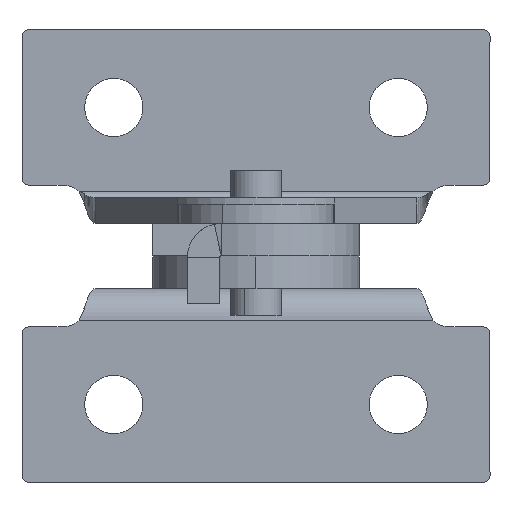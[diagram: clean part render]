
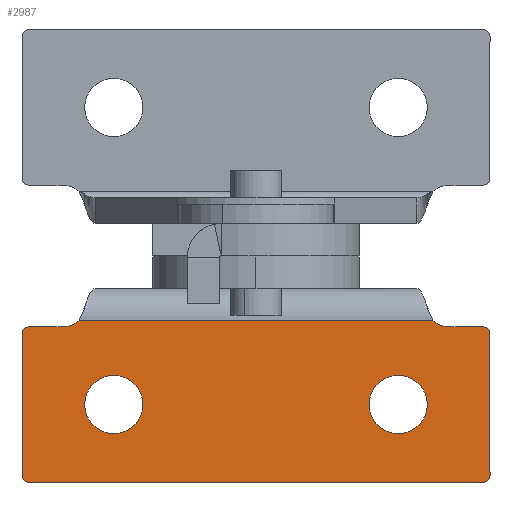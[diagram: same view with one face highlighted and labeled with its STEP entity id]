
A CAD part, left-side view. The second image highlights one B-rep face of the part: STEP entity #2987.
In plain terms, the highlighted planar face has unit normal (-1, 0, 0) as drawn and (0, 0, -1) by its records, which use the part's own axes.
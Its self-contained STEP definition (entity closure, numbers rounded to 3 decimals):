
#4 = EDGE_CURVE ( 'NONE', #628, #2465, #2777, .T. ) ;
#33 = ORIENTED_EDGE ( 'NONE', *, *, #722, .T. ) ;
#48 = CARTESIAN_POINT ( 'NONE',  ( 18.1, 0., -2. ) ) ;
#54 = EDGE_CURVE ( 'NONE', #201, #3118, #700, .T. ) ;
#67 = CARTESIAN_POINT ( 'NONE',  ( 17.6, 0.5, -2. ) ) ;
#75 = DIRECTION ( 'NONE',  ( 0., 0., -1. ) ) ;
#80 = CIRCLE ( 'NONE', #2393, 0.5 ) ;
#86 = EDGE_CURVE ( 'NONE', #2665, #1821, #1947, .T. ) ;
#97 = CARTESIAN_POINT ( 'NONE',  ( -17.6, 12., -2. ) ) ;
#100 = VERTEX_POINT ( 'NONE', #412 ) ;
#110 = DIRECTION ( 'NONE',  ( 1., 0., 0. ) ) ;
#112 = EDGE_CURVE ( 'NONE', #1745, #883, #2495, .T. ) ;
#115 = ORIENTED_EDGE ( 'NONE', *, *, #4, .F. ) ;
#130 = DIRECTION ( 'NONE',  ( -1., 0., 0. ) ) ;
#136 = CARTESIAN_POINT ( 'NONE',  ( 18.1, 12., -2. ) ) ;
#155 = CARTESIAN_POINT ( 'NONE',  ( 17.6, 0., -2. ) ) ;
#164 = VERTEX_POINT ( 'NONE', #616 ) ;
#197 = CIRCLE ( 'NONE', #1020, 2. ) ;
#201 = VERTEX_POINT ( 'NONE', #2551 ) ;
#202 = VECTOR ( 'NONE', #1856, 1000. ) ;
#217 = ORIENTED_EDGE ( 'NONE', *, *, #532, .T. ) ;
#284 = EDGE_LOOP ( 'NONE', ( #526, #217 ) ) ;
#300 = CARTESIAN_POINT ( 'NONE',  ( -11., 6., -2. ) ) ;
#303 = DIRECTION ( 'NONE',  ( 0., 0., 1. ) ) ;
#307 = DIRECTION ( 'NONE',  ( 1., 0., 0. ) ) ;
#320 = CARTESIAN_POINT ( 'NONE',  ( -18.1, 12., -2. ) ) ;
#342 = DIRECTION ( 'NONE',  ( 0., -1., 0. ) ) ;
#375 = LINE ( 'NONE', #136, #1700 ) ;
#412 = CARTESIAN_POINT ( 'NONE',  ( 13.69, 12.489, -2. ) ) ;
#442 = CARTESIAN_POINT ( 'NONE',  ( 15., 12.489, -2. ) ) ;
#448 = CARTESIAN_POINT ( 'NONE',  ( -15., 14., -2. ) ) ;
#454 = DIRECTION ( 'NONE',  ( 0., 0., -1. ) ) ;
#459 = DIRECTION ( 'NONE',  ( 1., 0., 0. ) ) ;
#484 = VECTOR ( 'NONE', #522, 1000. ) ;
#489 = CARTESIAN_POINT ( 'NONE',  ( -15., 12., -2. ) ) ;
#509 = VERTEX_POINT ( 'NONE', #2102 ) ;
#522 = DIRECTION ( 'NONE',  ( -1., 0., 0. ) ) ;
#526 = ORIENTED_EDGE ( 'NONE', *, *, #2678, .T. ) ;
#532 = EDGE_CURVE ( 'NONE', #974, #509, #773, .T. ) ;
#573 = DIRECTION ( 'NONE',  ( 0., 1., 0. ) ) ;
#595 = ORIENTED_EDGE ( 'NONE', *, *, #54, .T. ) ;
#616 = CARTESIAN_POINT ( 'NONE',  ( 17.6, 12., -2. ) ) ;
#625 = DIRECTION ( 'NONE',  ( -1., 0., 0. ) ) ;
#628 = VERTEX_POINT ( 'NONE', #2514 ) ;
#632 = ORIENTED_EDGE ( 'NONE', *, *, #112, .F. ) ;
#695 = ORIENTED_EDGE ( 'NONE', *, *, #1009, .T. ) ;
#700 = CIRCLE ( 'NONE', #1122, 2.25 ) ;
#722 = EDGE_CURVE ( 'NONE', #628, #3109, #2804, .T. ) ;
#773 = CIRCLE ( 'NONE', #1038, 2.25 ) ;
#804 = CIRCLE ( 'NONE', #919, 2.25 ) ;
#822 = CARTESIAN_POINT ( 'NONE',  ( -13.25, 6., -2. ) ) ;
#869 = LINE ( 'NONE', #2060, #202 ) ;
#883 = VERTEX_POINT ( 'NONE', #1393 ) ;
#884 = VECTOR ( 'NONE', #625, 1000. ) ;
#919 = AXIS2_PLACEMENT_3D ( 'NONE', #2228, #2173, #2116 ) ;
#941 = CIRCLE ( 'NONE', #2127, 0.5 ) ;
#974 = VERTEX_POINT ( 'NONE', #1521 ) ;
#1009 = EDGE_CURVE ( 'NONE', #164, #2465, #941, .T. ) ;
#1020 = AXIS2_PLACEMENT_3D ( 'NONE', #2413, #2414, #2421 ) ;
#1026 = VERTEX_POINT ( 'NONE', #1695 ) ;
#1038 = AXIS2_PLACEMENT_3D ( 'NONE', #2253, #2256, #2264 ) ;
#1039 = EDGE_CURVE ( 'NONE', #1208, #3109, #869, .T. ) ;
#1093 = ORIENTED_EDGE ( 'NONE', *, *, #2594, .F. ) ;
#1122 = AXIS2_PLACEMENT_3D ( 'NONE', #300, #303, #307 ) ;
#1125 = FACE_BOUND ( 'NONE', #2849, .T. ) ;
#1169 = CARTESIAN_POINT ( 'NONE',  ( 18.1, 11.5, -2. ) ) ;
#1208 = VERTEX_POINT ( 'NONE', #2272 ) ;
#1237 = LINE ( 'NONE', #442, #484 ) ;
#1260 = ORIENTED_EDGE ( 'NONE', *, *, #3079, .F. ) ;
#1295 = AXIS2_PLACEMENT_3D ( 'NONE', #1739, #1541, #1534 ) ;
#1298 = AXIS2_PLACEMENT_3D ( 'NONE', #1631, #1614, #1606 ) ;
#1393 = CARTESIAN_POINT ( 'NONE',  ( -15., 12., -2. ) ) ;
#1399 = ORIENTED_EDGE ( 'NONE', *, *, #2161, .T. ) ;
#1450 = AXIS2_PLACEMENT_3D ( 'NONE', #448, #454, #459 ) ;
#1459 = EDGE_CURVE ( 'NONE', #1208, #1821, #80, .T. ) ;
#1517 = CIRCLE ( 'NONE', #1295, 2.25 ) ;
#1521 = CARTESIAN_POINT ( 'NONE',  ( 8.75, 6., -2. ) ) ;
#1534 = DIRECTION ( 'NONE',  ( 1., 0., 0. ) ) ;
#1541 = DIRECTION ( 'NONE',  ( 0., 0., 1. ) ) ;
#1606 = DIRECTION ( 'NONE',  ( 1., 0., 0. ) ) ;
#1614 = DIRECTION ( 'NONE',  ( 0., 0., 1. ) ) ;
#1631 = CARTESIAN_POINT ( 'NONE',  ( 15., 14., -2. ) ) ;
#1660 = PLANE ( 'NONE',  #1298 ) ;
#1678 = EDGE_LOOP ( 'NONE', ( #1093, #695, #115, #33, #2853, #2271, #1919, #1805, #1260, #632, #2727, #2181 ) ) ;
#1680 = EDGE_CURVE ( 'NONE', #1026, #100, #197, .T. ) ;
#1695 = CARTESIAN_POINT ( 'NONE',  ( 15., 12., -2. ) ) ;
#1700 = VECTOR ( 'NONE', #130, 1000. ) ;
#1739 = CARTESIAN_POINT ( 'NONE',  ( -11., 6., -2. ) ) ;
#1745 = VERTEX_POINT ( 'NONE', #2494 ) ;
#1764 = CARTESIAN_POINT ( 'NONE',  ( 17.6, 11.5, -2. ) ) ;
#1769 = DIRECTION ( 'NONE',  ( 0., 0., -1. ) ) ;
#1785 = DIRECTION ( 'NONE',  ( 1., 0., 0. ) ) ;
#1805 = ORIENTED_EDGE ( 'NONE', *, *, #1913, .T. ) ;
#1821 = VERTEX_POINT ( 'NONE', #2646 ) ;
#1856 = DIRECTION ( 'NONE',  ( 1., 0., 0. ) ) ;
#1913 = EDGE_CURVE ( 'NONE', #2665, #2606, #2945, .T. ) ;
#1919 = ORIENTED_EDGE ( 'NONE', *, *, #86, .F. ) ;
#1931 = FACE_OUTER_BOUND ( 'NONE', #1678, .T. ) ;
#1933 = CARTESIAN_POINT ( 'NONE',  ( -17.6, 0.5, -2. ) ) ;
#1939 = DIRECTION ( 'NONE',  ( 0., 0., -1. ) ) ;
#1945 = DIRECTION ( 'NONE',  ( 1., 0., 0. ) ) ;
#1947 = LINE ( 'NONE', #320, #2585 ) ;
#2060 = CARTESIAN_POINT ( 'NONE',  ( -18.1, 0., -2. ) ) ;
#2102 = CARTESIAN_POINT ( 'NONE',  ( 13.25, 6., -2. ) ) ;
#2116 = DIRECTION ( 'NONE',  ( 1., 0., 0. ) ) ;
#2127 = AXIS2_PLACEMENT_3D ( 'NONE', #1764, #1769, #1785 ) ;
#2161 = EDGE_CURVE ( 'NONE', #3118, #201, #1517, .T. ) ;
#2162 = VECTOR ( 'NONE', #573, 1000. ) ;
#2169 = AXIS2_PLACEMENT_3D ( 'NONE', #2891, #2901, #2922 ) ;
#2173 = DIRECTION ( 'NONE',  ( 0., 0., 1. ) ) ;
#2181 = ORIENTED_EDGE ( 'NONE', *, *, #1680, .F. ) ;
#2228 = CARTESIAN_POINT ( 'NONE',  ( 11., 6., -2. ) ) ;
#2253 = CARTESIAN_POINT ( 'NONE',  ( 11., 6., -2. ) ) ;
#2256 = DIRECTION ( 'NONE',  ( 0., 0., 1. ) ) ;
#2264 = DIRECTION ( 'NONE',  ( 1., 0., 0. ) ) ;
#2271 = ORIENTED_EDGE ( 'NONE', *, *, #1459, .T. ) ;
#2272 = CARTESIAN_POINT ( 'NONE',  ( -17.6, 0., -2. ) ) ;
#2393 = AXIS2_PLACEMENT_3D ( 'NONE', #1933, #1939, #1945 ) ;
#2412 = FACE_BOUND ( 'NONE', #284, .T. ) ;
#2413 = CARTESIAN_POINT ( 'NONE',  ( 15., 14., -2. ) ) ;
#2414 = DIRECTION ( 'NONE',  ( 0., 0., -1. ) ) ;
#2421 = DIRECTION ( 'NONE',  ( 1., 0., 0. ) ) ;
#2465 = VERTEX_POINT ( 'NONE', #1169 ) ;
#2494 = CARTESIAN_POINT ( 'NONE',  ( -13.69, 12.489, -2. ) ) ;
#2495 = CIRCLE ( 'NONE', #1450, 2. ) ;
#2514 = CARTESIAN_POINT ( 'NONE',  ( 18.1, 0.5, -2. ) ) ;
#2551 = CARTESIAN_POINT ( 'NONE',  ( -8.75, 6., -2. ) ) ;
#2585 = VECTOR ( 'NONE', #342, 1000. ) ;
#2594 = EDGE_CURVE ( 'NONE', #164, #1026, #375, .T. ) ;
#2606 = VERTEX_POINT ( 'NONE', #97 ) ;
#2607 = LINE ( 'NONE', #489, #884 ) ;
#2646 = CARTESIAN_POINT ( 'NONE',  ( -18.1, 0.5, -2. ) ) ;
#2665 = VERTEX_POINT ( 'NONE', #2733 ) ;
#2668 = AXIS2_PLACEMENT_3D ( 'NONE', #67, #75, #110 ) ;
#2678 = EDGE_CURVE ( 'NONE', #509, #974, #804, .T. ) ;
#2727 = ORIENTED_EDGE ( 'NONE', *, *, #2833, .F. ) ;
#2733 = CARTESIAN_POINT ( 'NONE',  ( -18.1, 11.5, -2. ) ) ;
#2777 = LINE ( 'NONE', #48, #2162 ) ;
#2804 = CIRCLE ( 'NONE', #2668, 0.5 ) ;
#2833 = EDGE_CURVE ( 'NONE', #100, #1745, #1237, .T. ) ;
#2849 = EDGE_LOOP ( 'NONE', ( #595, #1399 ) ) ;
#2853 = ORIENTED_EDGE ( 'NONE', *, *, #1039, .F. ) ;
#2891 = CARTESIAN_POINT ( 'NONE',  ( -17.6, 11.5, -2. ) ) ;
#2901 = DIRECTION ( 'NONE',  ( 0., 0., -1. ) ) ;
#2922 = DIRECTION ( 'NONE',  ( 1., 0., 0. ) ) ;
#2945 = CIRCLE ( 'NONE', #2169, 0.5 ) ;
#2987 = ADVANCED_FACE ( 'NONE', ( #1931, #2412, #1125 ), #1660, .F. ) ;
#3079 = EDGE_CURVE ( 'NONE', #883, #2606, #2607, .T. ) ;
#3109 = VERTEX_POINT ( 'NONE', #155 ) ;
#3118 = VERTEX_POINT ( 'NONE', #822 ) ;
